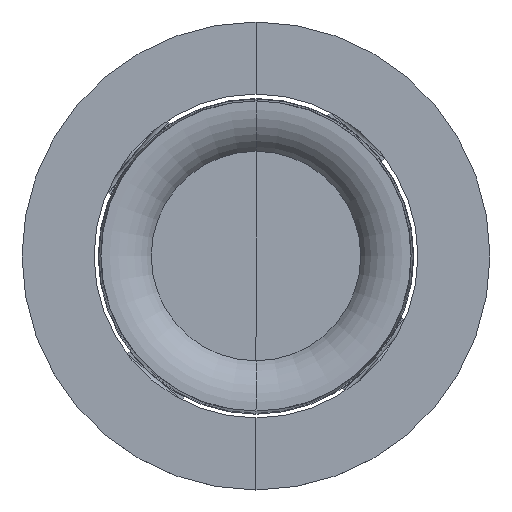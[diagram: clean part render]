
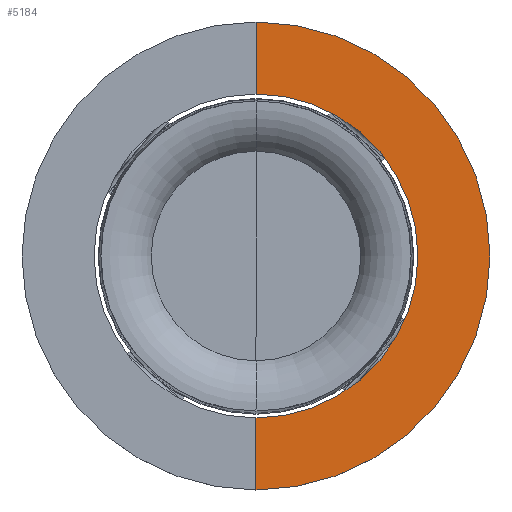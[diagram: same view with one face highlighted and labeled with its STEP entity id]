
A CAD part, top view. The second image highlights one B-rep face of the part: STEP entity #5184.
In plain terms, the highlighted planar face has unit normal (0, 0, 1) as drawn and (0, 0, -1) by its records, which use the part's own axes.
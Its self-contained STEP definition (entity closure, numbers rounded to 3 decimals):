
#293=PLANE('',#5733);
#577=FACE_OUTER_BOUND('',#903,.T.);
#903=EDGE_LOOP('',(#4637,#4638,#4639,#4640));
#1165=CIRCLE('',#5728,43.);
#1169=CIRCLE('',#5734,29.753);
#1609=LINE('',#9103,#2047);
#1610=LINE('',#9106,#2048);
#2047=VECTOR('',#7204,304.8);
#2048=VECTOR('',#7207,304.8);
#2517=VERTEX_POINT('',#9090);
#2519=VERTEX_POINT('',#9093);
#2521=VERTEX_POINT('',#9102);
#2522=VERTEX_POINT('',#9104);
#3222=EDGE_CURVE('',#2519,#2517,#1165,.T.);
#3227=EDGE_CURVE('',#2521,#2517,#1609,.T.);
#3228=EDGE_CURVE('',#2522,#2521,#1169,.T.);
#3229=EDGE_CURVE('',#2519,#2522,#1610,.T.);
#4637=ORIENTED_EDGE('',*,*,#3227,.F.);
#4638=ORIENTED_EDGE('',*,*,#3228,.F.);
#4639=ORIENTED_EDGE('',*,*,#3229,.F.);
#4640=ORIENTED_EDGE('',*,*,#3222,.T.);
#5184=ADVANCED_FACE('',(#577),#293,.T.);
#5728=AXIS2_PLACEMENT_3D('',#9094,#7191,#7192);
#5733=AXIS2_PLACEMENT_3D('',#9101,#7202,#7203);
#5734=AXIS2_PLACEMENT_3D('',#9105,#7205,#7206);
#7191=DIRECTION('center_axis',(0.,0.,-1.));
#7192=DIRECTION('ref_axis',(0.,-1.,0.));
#7202=DIRECTION('center_axis',(0.,0.,-1.));
#7203=DIRECTION('ref_axis',(0.,-1.,0.));
#7204=DIRECTION('',(0.,-1.,0.));
#7205=DIRECTION('center_axis',(0.,0.,-1.));
#7206=DIRECTION('ref_axis',(0.,-1.,0.));
#7207=DIRECTION('',(0.,-1.,0.));
#9090=CARTESIAN_POINT('',(0.,-43.,-2.));
#9093=CARTESIAN_POINT('',(0.,43.,-2.));
#9094=CARTESIAN_POINT('Origin',(0.,0.,-2.));
#9101=CARTESIAN_POINT('Origin',(0.,0.,-2.));
#9102=CARTESIAN_POINT('',(0.,-29.753,-2.));
#9103=CARTESIAN_POINT('',(0.,-29.753,-2.));
#9104=CARTESIAN_POINT('',(0.,29.753,-2.));
#9105=CARTESIAN_POINT('Origin',(0.,0.,-2.));
#9106=CARTESIAN_POINT('',(0.,43.,-2.));
